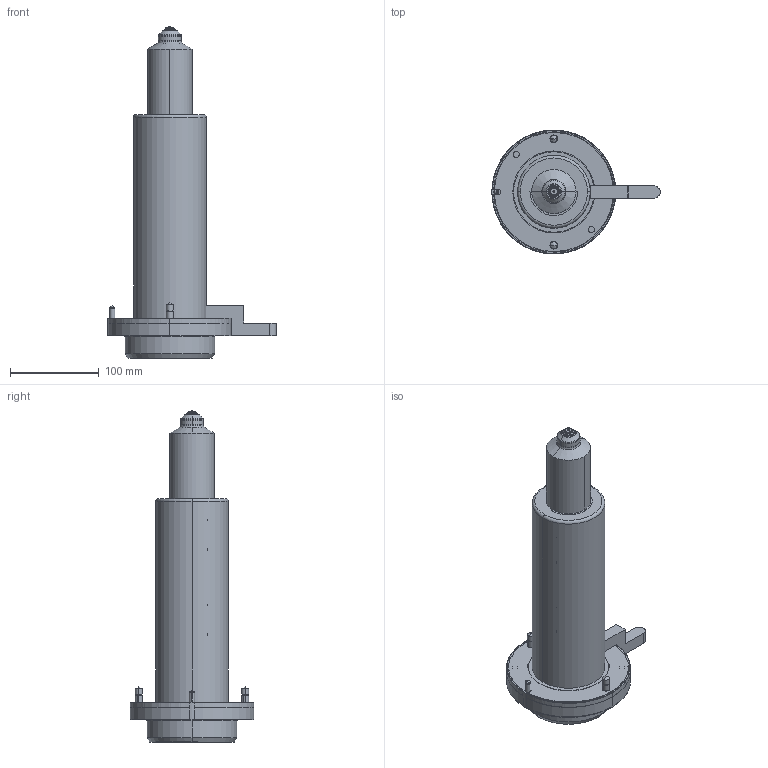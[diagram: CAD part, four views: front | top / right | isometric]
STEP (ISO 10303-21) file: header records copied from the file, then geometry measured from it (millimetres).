
FILE_DESCRIPTION (( 'STEP AP214' ), '1' );
FILE_NAME ('SB15_OPEN_A350.STEP', '2009-07-28T13:42:50', ( 'Synventive Molding Solutions' ), ( 'Synventive Molding Solutions' ), 'SwSTEP 2.0', 'SolidWorks 2008', '' );
FILE_SCHEMA (( 'AUTOMOTIVE_DESIGN' ));
Length unit declared in the file: millimetre
Products named in the file (1): SB15_OPEN_A350
Bounding box: 190 x 140 x 375 mm (x, y, z)
Volume: 2773914 mm3; surface area: 260486.3 mm2
Topology: 4 solids, 9 shells, 701 faces, 1729 edges, 1070 vertices
Faces by surface type: cylinder 279, plane 243, torus 88, cone 79, sphere 8, bspline 4
Entity records: 30121 total; most frequent: CARTESIAN_POINT 5697, DIRECTION 3633, ORIENTED_EDGE 3418, EDGE_CURVE 1709, AXIS2_PLACEMENT_3D 1428, VERTEX_POINT 1070, LINE 777, VECTOR 777
